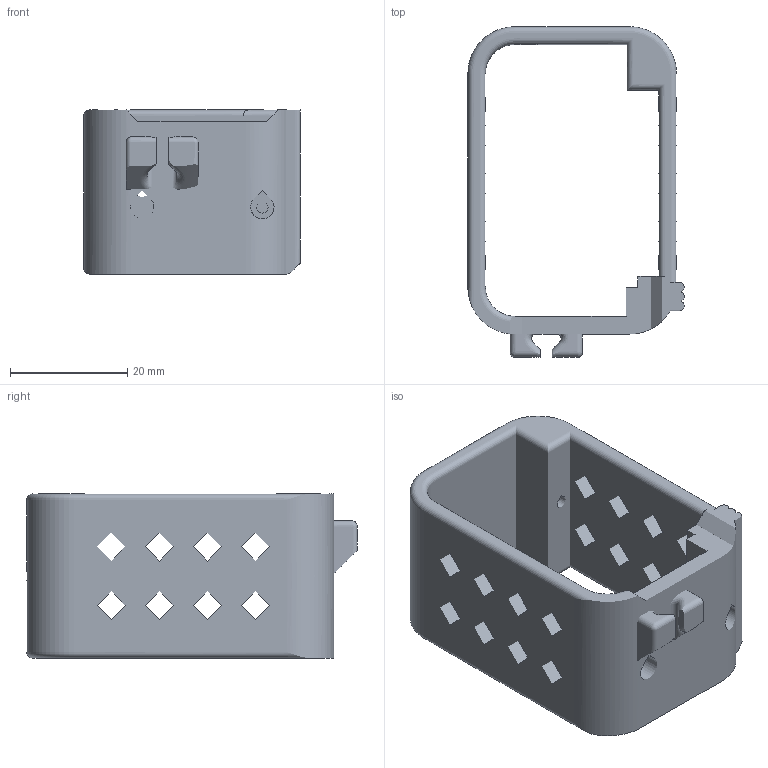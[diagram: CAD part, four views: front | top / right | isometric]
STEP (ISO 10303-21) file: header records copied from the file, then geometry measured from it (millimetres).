
FILE_DESCRIPTION(/* description */ ('STEP AP242 Edition 2','CAx-IF Rec.Pracs.---Representation and Presentation of Product Manufacturing Information (PMI)---4.0---2014-10-13','CAx-IF Rec.Pracs.---3D Tessellated Geometry---0.4---2014-09-14','2;1','CAx-IF Rec.Pracs.---User Defined Attributes---1.5---2016-08-15'),/* implementation_level */ '2;1');
FILE_NAME(/* name */ 'BambuLabA1mini_Leader_SO101 - Part 3',/* time_stamp */ '2026-11-25T15:08:23Z',/* author */ (''),/* organization */ (''),/* preprocessor_version */ 'ST-DEVELOPER v20',/* originating_system */ 'ONSHAPE BY PTC INC, 1.224',/* authorisation */ ' ');
FILE_SCHEMA (('AP242_MANAGED_MODEL_BASED_3D_ENGINEERING_MIM_LF { 1 0 10303 442 3 1 4 }'));
Length unit declared in the file: metre
Products named in the file (1): Part 3
Bounding box: 36.9 x 56.39 x 28 mm (x, y, z)
Surface area: 10186.2 mm2 (no closed solid volume)
Topology: 0 solids, 1 shells, 1 faces, 0 edges, 0 vertices
Faces by surface type: other 1
Entity records: 38 total; most frequent: STYLED_ITEM 2, PRESENTATION_STYLE_ASSIGNMENT 2, SURFACE_STYLE_USAGE 2, SURFACE_SIDE_STYLE 2, SURFACE_STYLE_FILL_AREA 2, FILL_AREA_STYLE 2, FILL_AREA_STYLE_COLOUR 2, DIRECTION 2
